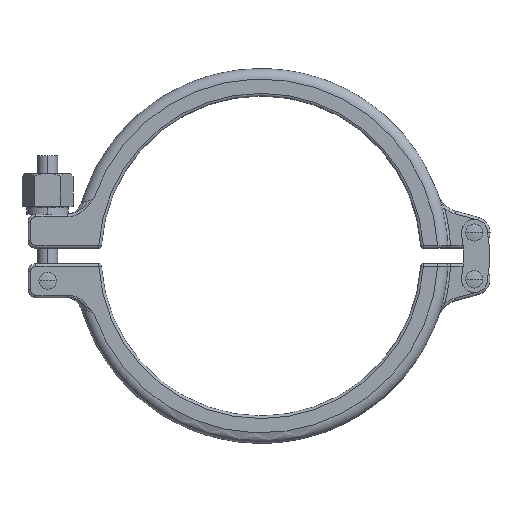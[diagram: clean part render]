
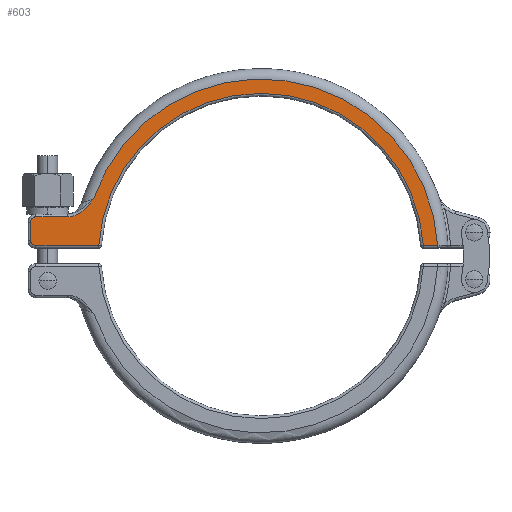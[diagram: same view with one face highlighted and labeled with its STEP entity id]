
A CAD part, top view. The second image highlights one B-rep face of the part: STEP entity #603.
In plain terms, the highlighted planar face has unit normal (0, 0, 1).
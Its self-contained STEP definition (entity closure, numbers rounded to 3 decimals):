
#352 = DIRECTION ( 'NONE',  ( 1., 0., 0. ) ) ;
#494 = DIRECTION ( 'NONE',  ( 0., 0., 1. ) ) ;
#498 = DIRECTION ( 'NONE',  ( 1., 0., 0. ) ) ;
#603 = ADVANCED_FACE ( 'NONE', ( #13350 ), #2825, .T. ) ;
#678 = CARTESIAN_POINT ( 'NONE',  ( 67.784, 4., 8.5 ) ) ;
#846 = EDGE_CURVE ( 'NONE', #6953, #6019, #3713, .T. ) ;
#1048 = ORIENTED_EDGE ( 'NONE', *, *, #12465, .T. ) ;
#1491 = CARTESIAN_POINT ( 'NONE',  ( -69.222, 16.617, 8.5 ) ) ;
#1502 = DIRECTION ( 'NONE',  ( 0., -1., 0. ) ) ;
#1624 = CARTESIAN_POINT ( 'NONE',  ( -65.473, 20.319, 8.5 ) ) ;
#2595 = CARTESIAN_POINT ( 'NONE',  ( -73.66, 15., 8.5 ) ) ;
#2825 = PLANE ( 'NONE',  #9020 ) ;
#3075 = CARTESIAN_POINT ( 'NONE',  ( 0., 0., 8.5 ) ) ;
#3121 = ORIENTED_EDGE ( 'NONE', *, *, #4062, .T. ) ;
#3192 = CIRCLE ( 'NONE', #3431, 67.85 ) ;
#3308 = ORIENTED_EDGE ( 'NONE', *, *, #11623, .T. ) ;
#3431 = AXIS2_PLACEMENT_3D ( 'NONE', #3075, #7226, #10526 ) ;
#3581 = CARTESIAN_POINT ( 'NONE',  ( -88.35, 6., 8.5 ) ) ;
#3670 = ORIENTED_EDGE ( 'NONE', *, *, #8496, .T. ) ;
#3713 = LINE ( 'NONE', #678, #10764 ) ;
#3783 = VECTOR ( 'NONE', #1502, 1000. ) ;
#3926 = AXIS2_PLACEMENT_3D ( 'NONE', #11670, #9281, #4106 ) ;
#3957 = ORIENTED_EDGE ( 'NONE', *, *, #11740, .T. ) ;
#4062 = EDGE_CURVE ( 'NONE', #12651, #10956, #13365, .T. ) ;
#4106 = DIRECTION ( 'NONE',  ( 1., 0., 0. ) ) ;
#4226 = CARTESIAN_POINT ( 'NONE',  ( 67.732, 4., 8.5 ) ) ;
#4340 = VERTEX_POINT ( 'NONE', #4729 ) ;
#4468 = CARTESIAN_POINT ( 'NONE',  ( -71.592, 15.431, 8.5 ) ) ;
#4672 = CARTESIAN_POINT ( 'NONE',  ( -68.787, 16.932, 8.5 ) ) ;
#4729 = CARTESIAN_POINT ( 'NONE',  ( -64.184, 22., 8.5 ) ) ;
#4754 = EDGE_CURVE ( 'NONE', #12567, #4994, #7160, .T. ) ;
#4994 = VERTEX_POINT ( 'NONE', #9591 ) ;
#5511 = B_SPLINE_CURVE_WITH_KNOTS ( 'NONE', 3,
 ( #7722, #5557, #1624, #5815, #9985, #4672, #1491, #8819, #8681, #5688, #4468, #12784, #6698, #12850, #2595, #9849 ),
 .UNSPECIFIED., .F., .F.,
 ( 4, 2, 2, 2, 2, 2, 2, 4 ),
 ( 0., 0.003, 0.006, 0.008, 0.01, 0.01, 0.011, 0.013 ),
 .UNSPECIFIED. ) ;
#5528 = ORIENTED_EDGE ( 'NONE', *, *, #846, .T. ) ;
#5557 = CARTESIAN_POINT ( 'NONE',  ( -64.831, 21.162, 8.5 ) ) ;
#5688 = CARTESIAN_POINT ( 'NONE',  ( -71.339, 15.521, 8.5 ) ) ;
#5698 = CARTESIAN_POINT ( 'NONE',  ( 0., 0., 8.5 ) ) ;
#5815 = CARTESIAN_POINT ( 'NONE',  ( -66.838, 18.709, 8.5 ) ) ;
#5862 = VECTOR ( 'NONE', #9278, 1000. ) ;
#6019 = VERTEX_POINT ( 'NONE', #4226 ) ;
#6322 = CARTESIAN_POINT ( 'NONE',  ( -61.277, 4., 8.5 ) ) ;
#6386 = AXIS2_PLACEMENT_3D ( 'NONE', #5698, #9860, #498 ) ;
#6698 = CARTESIAN_POINT ( 'NONE',  ( -72.357, 15.212, 8.5 ) ) ;
#6811 = CARTESIAN_POINT ( 'NONE',  ( 62.222, 4., 8.5 ) ) ;
#6907 = EDGE_LOOP ( 'NONE', ( #3957, #3308, #1048, #7505, #9600, #3121, #12547, #3670, #5528 ) ) ;
#6953 = VERTEX_POINT ( 'NONE', #6811 ) ;
#7122 = VECTOR ( 'NONE', #10048, 1000. ) ;
#7160 = CIRCLE ( 'NONE', #3926, 2. ) ;
#7226 = DIRECTION ( 'NONE',  ( 0., 0., 1. ) ) ;
#7505 = ORIENTED_EDGE ( 'NONE', *, *, #4754, .T. ) ;
#7722 = CARTESIAN_POINT ( 'NONE',  ( -64.184, 22., 8.5 ) ) ;
#8148 = DIRECTION ( 'NONE',  ( 1., 0., 0. ) ) ;
#8492 = EDGE_CURVE ( 'NONE', #4994, #12651, #12999, .T. ) ;
#8496 = EDGE_CURVE ( 'NONE', #8638, #6953, #10107, .T. ) ;
#8638 = VERTEX_POINT ( 'NONE', #8794 ) ;
#8681 = CARTESIAN_POINT ( 'NONE',  ( -70.598, 15.821, 8.5 ) ) ;
#8794 = CARTESIAN_POINT ( 'NONE',  ( -62.222, 4., 8.5 ) ) ;
#8819 = CARTESIAN_POINT ( 'NONE',  ( -70.126, 16.062, 8.5 ) ) ;
#9020 = AXIS2_PLACEMENT_3D ( 'NONE', #10005, #9040, #8148 ) ;
#9022 = DIRECTION ( 'NONE',  ( 1., 0., 0. ) ) ;
#9040 = DIRECTION ( 'NONE',  ( 0., 0., 1. ) ) ;
#9278 = DIRECTION ( 'NONE',  ( 1., 0., 0. ) ) ;
#9281 = DIRECTION ( 'NONE',  ( 0., 0., 1. ) ) ;
#9423 = CARTESIAN_POINT ( 'NONE',  ( -86.35, 15., 8.5 ) ) ;
#9591 = CARTESIAN_POINT ( 'NONE',  ( -88.35, 13., 8.5 ) ) ;
#9596 = CARTESIAN_POINT ( 'NONE',  ( -74.196, 15., 8.5 ) ) ;
#9600 = ORIENTED_EDGE ( 'NONE', *, *, #8492, .T. ) ;
#9631 = CARTESIAN_POINT ( 'NONE',  ( -88.35, 6., 8.5 ) ) ;
#9849 = CARTESIAN_POINT ( 'NONE',  ( -74.196, 15., 8.5 ) ) ;
#9860 = DIRECTION ( 'NONE',  ( 0., 0., -1. ) ) ;
#9985 = CARTESIAN_POINT ( 'NONE',  ( -67.56, 17.944, 8.5 ) ) ;
#10005 = CARTESIAN_POINT ( 'NONE',  ( 0., 0., 8.5 ) ) ;
#10048 = DIRECTION ( 'NONE',  ( -1., 0., 0. ) ) ;
#10107 = CIRCLE ( 'NONE', #6386, 62.35 ) ;
#10300 = AXIS2_PLACEMENT_3D ( 'NONE', #12034, #494, #352 ) ;
#10526 = DIRECTION ( 'NONE',  ( 1., 0., 0. ) ) ;
#10764 = VECTOR ( 'NONE', #9022, 1000. ) ;
#10956 = VERTEX_POINT ( 'NONE', #11300 ) ;
#11210 = CARTESIAN_POINT ( 'NONE',  ( -86.35, 15., 8.5 ) ) ;
#11300 = CARTESIAN_POINT ( 'NONE',  ( -86.35, 4., 8.5 ) ) ;
#11340 = LINE ( 'NONE', #11210, #7122 ) ;
#11623 = EDGE_CURVE ( 'NONE', #4340, #11928, #5511, .T. ) ;
#11670 = CARTESIAN_POINT ( 'NONE',  ( -86.35, 13., 8.5 ) ) ;
#11740 = EDGE_CURVE ( 'NONE', #6019, #4340, #3192, .T. ) ;
#11928 = VERTEX_POINT ( 'NONE', #9596 ) ;
#12034 = CARTESIAN_POINT ( 'NONE',  ( -86.35, 6., 8.5 ) ) ;
#12465 = EDGE_CURVE ( 'NONE', #11928, #12567, #11340, .T. ) ;
#12478 = LINE ( 'NONE', #6322, #5862 ) ;
#12547 = ORIENTED_EDGE ( 'NONE', *, *, #12896, .T. ) ;
#12567 = VERTEX_POINT ( 'NONE', #9423 ) ;
#12651 = VERTEX_POINT ( 'NONE', #9631 ) ;
#12784 = CARTESIAN_POINT ( 'NONE',  ( -72.101, 15.277, 8.5 ) ) ;
#12850 = CARTESIAN_POINT ( 'NONE',  ( -73.134, 15.055, 8.5 ) ) ;
#12896 = EDGE_CURVE ( 'NONE', #10956, #8638, #12478, .T. ) ;
#12999 = LINE ( 'NONE', #3581, #3783 ) ;
#13350 = FACE_OUTER_BOUND ( 'NONE', #6907, .T. ) ;
#13365 = CIRCLE ( 'NONE', #10300, 2. ) ;
